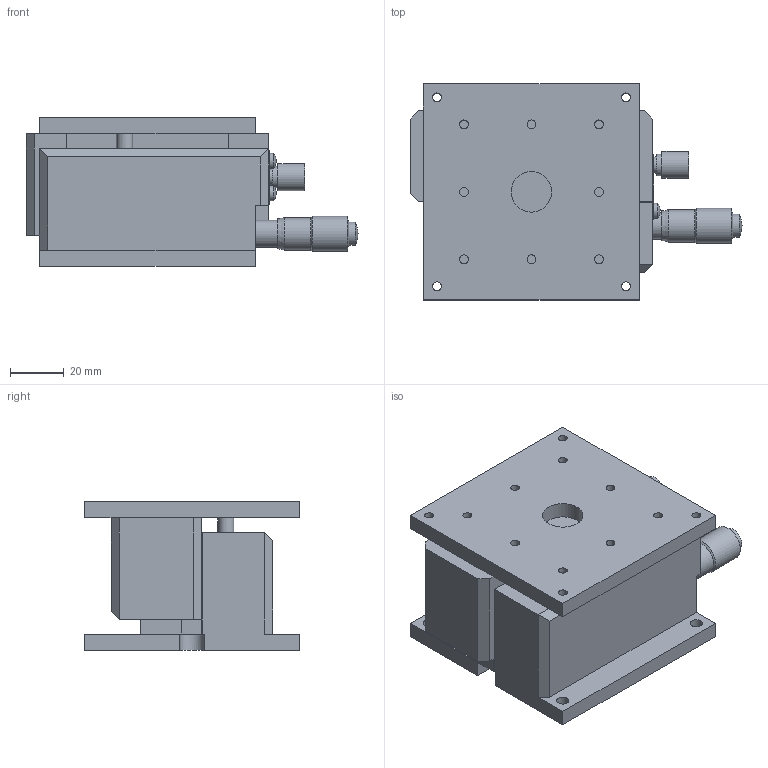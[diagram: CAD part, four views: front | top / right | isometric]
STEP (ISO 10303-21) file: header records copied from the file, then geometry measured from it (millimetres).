
FILE_DESCRIPTION( ( 'STEP AP214' ), '1' );
FILE_NAME( 'C:/Project/3D_B33-80A-配布-070508.stp', '2007-05-08T10:43:28', ( ' ' ), ( ' ' ), 'XStep 1.0', ' ', ' ' );
FILE_SCHEMA( ( 'automotive_design' ) );
Length unit declared in the file: millimetre
Products named in the file (4): 1; 2; 3; 4
Bounding box: 123 x 80 x 55 mm (x, y, z)
Volume: 243456.2 mm3; surface area: 65191.5 mm2
Topology: 4 solids, 4 shells, 148 faces, 358 edges, 232 vertices
Faces by surface type: plane 96, cylinder 43, sphere 5, cone 4
Full cylindrical faces by diameter (mm): 3.3 x12, 4 x1, 4.5 x4, 5 x4, 5.6 x2, 6 x2, 8 x2, 8.6 x1, 9 x1, 10 x2, 10.5 x1, 12 x1, 13 x1, 15 x1
Entity records: 5330 total; most frequent: DIRECTION 705, CARTESIAN_POINT 685, ORIENTED_EDGE 618, EDGE_CURVE 309, AXIS2_PLACEMENT_3D 244, EDGE_LOOP 237, VERTEX_POINT 224, LINE 217
